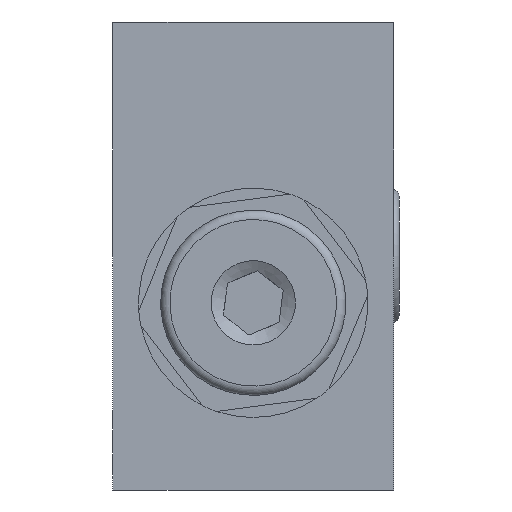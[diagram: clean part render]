
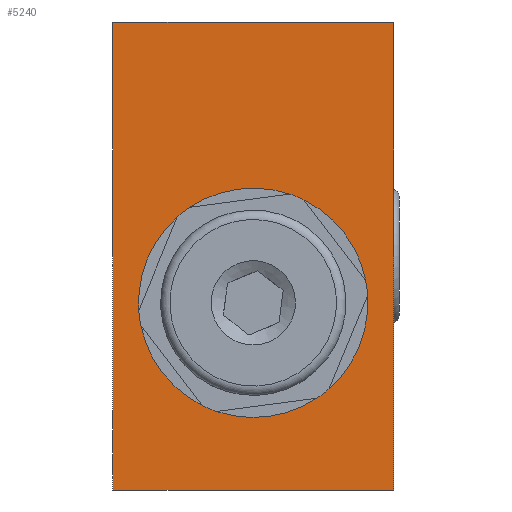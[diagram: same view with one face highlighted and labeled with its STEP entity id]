
A CAD part, left-side view. The second image highlights one B-rep face of the part: STEP entity #5240.
In plain terms, the highlighted planar face has unit normal (-1, 0, 0).
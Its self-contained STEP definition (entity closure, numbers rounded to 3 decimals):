
#35=LINE('',#9663,#143);
#51=LINE('',#9715,#159);
#52=LINE('',#9729,#160);
#53=LINE('',#9731,#161);
#143=VECTOR('',#6410,1000.);
#159=VECTOR('',#6460,1000.);
#160=VECTOR('',#6479,1000.);
#161=VECTOR('',#6480,1000.);
#334=PLANE('',#5646);
#1001=ORIENTED_EDGE('',*,*,#1585,.T.);
#1002=ORIENTED_EDGE('',*,*,#1578,.T.);
#1003=ORIENTED_EDGE('',*,*,#1586,.T.);
#1004=ORIENTED_EDGE('',*,*,#1573,.T.);
#1005=ORIENTED_EDGE('',*,*,#1587,.T.);
#1006=ORIENTED_EDGE('',*,*,#1568,.T.);
#1007=ORIENTED_EDGE('',*,*,#1588,.T.);
#1008=ORIENTED_EDGE('',*,*,#1589,.T.);
#1009=ORIENTED_EDGE('',*,*,#1590,.T.);
#1010=ORIENTED_EDGE('',*,*,#1591,.T.);
#1011=ORIENTED_EDGE('',*,*,#1592,.T.);
#1012=ORIENTED_EDGE('',*,*,#1563,.T.);
#1013=ORIENTED_EDGE('',*,*,#1560,.T.);
#1014=ORIENTED_EDGE('',*,*,#1584,.T.);
#1015=ORIENTED_EDGE('',*,*,#1593,.F.);
#1016=ORIENTED_EDGE('',*,*,#1594,.F.);
#1560=EDGE_CURVE('',#1945,#1944,#35,.T.);
#1563=EDGE_CURVE('',#1948,#1946,#2197,.T.);
#1568=EDGE_CURVE('',#1952,#1950,#2199,.T.);
#1573=EDGE_CURVE('',#1956,#1954,#2201,.T.);
#1578=EDGE_CURVE('',#1960,#1958,#2203,.T.);
#1584=EDGE_CURVE('',#1944,#1963,#51,.T.);
#1585=EDGE_CURVE('',#1946,#1960,#2205,.T.);
#1586=EDGE_CURVE('',#1958,#1956,#2206,.T.);
#1587=EDGE_CURVE('',#1954,#1952,#2207,.T.);
#1588=EDGE_CURVE('',#1950,#1964,#2208,.T.);
#1589=EDGE_CURVE('',#1964,#1965,#2209,.T.);
#1590=EDGE_CURVE('',#1965,#1966,#2210,.T.);
#1591=EDGE_CURVE('',#1966,#1967,#2211,.T.);
#1592=EDGE_CURVE('',#1967,#1948,#2212,.T.);
#1593=EDGE_CURVE('',#1968,#1963,#52,.T.);
#1594=EDGE_CURVE('',#1945,#1968,#53,.T.);
#1944=VERTEX_POINT('',#9662);
#1945=VERTEX_POINT('',#9664);
#1946=VERTEX_POINT('',#9668);
#1948=VERTEX_POINT('',#9671);
#1950=VERTEX_POINT('',#9679);
#1952=VERTEX_POINT('',#9682);
#1954=VERTEX_POINT('',#9690);
#1956=VERTEX_POINT('',#9693);
#1958=VERTEX_POINT('',#9701);
#1960=VERTEX_POINT('',#9704);
#1963=VERTEX_POINT('',#9714);
#1964=VERTEX_POINT('',#9721);
#1965=VERTEX_POINT('',#9723);
#1966=VERTEX_POINT('',#9725);
#1967=VERTEX_POINT('',#9727);
#1968=VERTEX_POINT('',#9730);
#2197=CIRCLE('',#5630,12.25);
#2199=CIRCLE('',#5634,12.25);
#2201=CIRCLE('',#5638,12.25);
#2203=CIRCLE('',#5642,12.25);
#2205=CIRCLE('',#5647,12.25);
#2206=CIRCLE('',#5648,12.25);
#2207=CIRCLE('',#5649,12.25);
#2208=CIRCLE('',#5650,12.25);
#2209=CIRCLE('',#5651,12.25);
#2210=CIRCLE('',#5652,12.25);
#2211=CIRCLE('',#5653,12.25);
#2212=CIRCLE('',#5654,12.25);
#2652=EDGE_LOOP('',(#1001,#1002,#1003,#1004,#1005,#1006,#1007,#1008,#1009,
#1010,#1011,#1012));
#2653=EDGE_LOOP('',(#1013,#1014,#1015,#1016));
#3160=FACE_BOUND('',#2652,.T.);
#3161=FACE_BOUND('',#2653,.T.);
#5240=ADVANCED_FACE('',(#3160,#3161),#334,.F.);
#5630=AXIS2_PLACEMENT_3D('',#9670,#6415,#6416);
#5634=AXIS2_PLACEMENT_3D('',#9681,#6426,#6427);
#5638=AXIS2_PLACEMENT_3D('',#9692,#6437,#6438);
#5642=AXIS2_PLACEMENT_3D('',#9703,#6448,#6449);
#5646=AXIS2_PLACEMENT_3D('',#9716,#6461,#6462);
#5647=AXIS2_PLACEMENT_3D('',#9717,#6463,#6464);
#5648=AXIS2_PLACEMENT_3D('',#9718,#6465,#6466);
#5649=AXIS2_PLACEMENT_3D('',#9719,#6467,#6468);
#5650=AXIS2_PLACEMENT_3D('',#9720,#6469,#6470);
#5651=AXIS2_PLACEMENT_3D('',#9722,#6471,#6472);
#5652=AXIS2_PLACEMENT_3D('',#9724,#6473,#6474);
#5653=AXIS2_PLACEMENT_3D('',#9726,#6475,#6476);
#5654=AXIS2_PLACEMENT_3D('',#9728,#6477,#6478);
#6410=DIRECTION('',(0.,0.,-1.));
#6415=DIRECTION('',(1.,0.,0.));
#6416=DIRECTION('',(0.,-1.,0.));
#6426=DIRECTION('',(1.,0.,0.));
#6427=DIRECTION('',(0.,-1.,0.));
#6437=DIRECTION('',(1.,0.,0.));
#6438=DIRECTION('',(0.,-1.,0.));
#6448=DIRECTION('',(1.,0.,0.));
#6449=DIRECTION('',(0.,-1.,0.));
#6460=DIRECTION('',(0.,-1.,0.));
#6461=DIRECTION('',(1.,0.,0.));
#6462=DIRECTION('',(0.,0.,-1.));
#6463=DIRECTION('',(1.,0.,0.));
#6464=DIRECTION('',(0.,-1.,0.));
#6465=DIRECTION('',(1.,0.,0.));
#6466=DIRECTION('',(0.,-1.,0.));
#6467=DIRECTION('',(1.,0.,0.));
#6468=DIRECTION('',(0.,-1.,0.));
#6469=DIRECTION('',(1.,0.,0.));
#6470=DIRECTION('',(0.,-1.,0.));
#6471=DIRECTION('',(1.,0.,0.));
#6472=DIRECTION('',(0.,-1.,0.));
#6473=DIRECTION('',(1.,0.,0.));
#6474=DIRECTION('',(0.,-1.,0.));
#6475=DIRECTION('',(1.,0.,0.));
#6476=DIRECTION('',(0.,-1.,0.));
#6477=DIRECTION('',(1.,0.,0.));
#6478=DIRECTION('',(0.,-1.,0.));
#6479=DIRECTION('',(0.,0.,-1.));
#6480=DIRECTION('',(0.,-1.,0.));
#9662=CARTESIAN_POINT('',(-40.5,15.,-25.));
#9663=CARTESIAN_POINT('',(-40.5,15.,20.));
#9664=CARTESIAN_POINT('',(-40.5,15.,25.));
#9668=CARTESIAN_POINT('',(-40.5,-8.108,-14.183));
#9670=CARTESIAN_POINT('',(-40.5,0.,-5.));
#9671=CARTESIAN_POINT('',(-40.5,-12.225,-4.218));
#9679=CARTESIAN_POINT('',(-40.5,8.108,4.183));
#9681=CARTESIAN_POINT('',(-40.5,0.,-5.));
#9682=CARTESIAN_POINT('',(-40.5,12.225,-5.782));
#9690=CARTESIAN_POINT('',(-40.5,12.007,-7.43));
#9692=CARTESIAN_POINT('',(-40.5,0.,-5.));
#9693=CARTESIAN_POINT('',(-40.5,5.435,-15.978));
#9701=CARTESIAN_POINT('',(-40.5,3.899,-16.613));
#9703=CARTESIAN_POINT('',(-40.5,0.,-5.));
#9704=CARTESIAN_POINT('',(-40.5,-6.79,-15.196));
#9714=CARTESIAN_POINT('',(-40.5,-15.,-25.));
#9715=CARTESIAN_POINT('',(-40.5,-15.,-25.));
#9716=CARTESIAN_POINT('',(-40.5,-15.,20.));
#9717=CARTESIAN_POINT('',(-40.5,0.,-5.));
#9718=CARTESIAN_POINT('',(-40.5,0.,-5.));
#9719=CARTESIAN_POINT('',(-40.5,0.,-5.));
#9720=CARTESIAN_POINT('',(-40.5,0.,-5.));
#9721=CARTESIAN_POINT('',(-40.5,6.79,5.196));
#9722=CARTESIAN_POINT('',(-40.5,0.,-5.));
#9723=CARTESIAN_POINT('',(-40.5,-3.899,6.613));
#9724=CARTESIAN_POINT('',(-40.5,0.,-5.));
#9725=CARTESIAN_POINT('',(-40.5,-5.435,5.978));
#9726=CARTESIAN_POINT('',(-40.5,0.,-5.));
#9727=CARTESIAN_POINT('',(-40.5,-12.007,-2.57));
#9728=CARTESIAN_POINT('',(-40.5,0.,-5.));
#9729=CARTESIAN_POINT('',(-40.5,-15.,20.));
#9730=CARTESIAN_POINT('',(-40.5,-15.,25.));
#9731=CARTESIAN_POINT('',(-40.5,-15.,25.));
